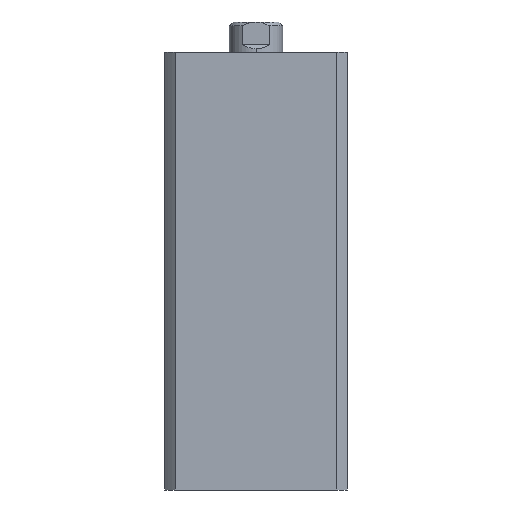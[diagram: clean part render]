
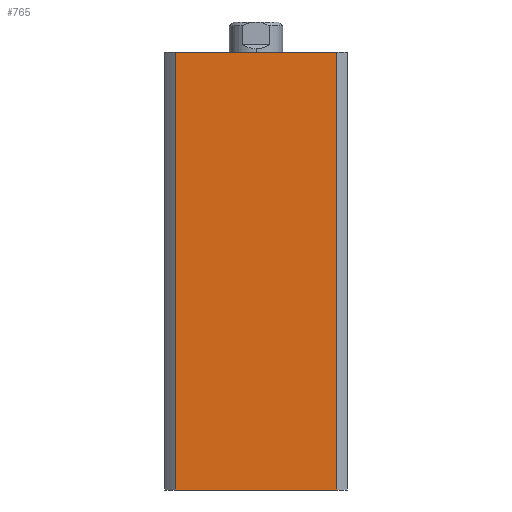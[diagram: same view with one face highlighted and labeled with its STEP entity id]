
A CAD part, left-side view. The second image highlights one B-rep face of the part: STEP entity #765.
In plain terms, the highlighted planar face has unit normal (-1, 0, 0).
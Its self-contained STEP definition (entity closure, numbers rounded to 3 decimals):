
#57 = VERTEX_POINT ( 'NONE', #1114 ) ;
#135 = DIRECTION ( 'NONE',  ( 0., 0., -1. ) ) ;
#136 = DIRECTION ( 'NONE',  ( 1., 0., 0. ) ) ;
#140 = PLANE ( 'NONE',  #4514 ) ;
#143 = CARTESIAN_POINT ( 'NONE',  ( -24., 0., 115. ) ) ;
#495 = VERTEX_POINT ( 'NONE', #1107 ) ;
#765 = ADVANCED_FACE ( 'NONE', ( #3875 ), #140, .F. ) ;
#865 = EDGE_CURVE ( 'NONE', #895, #3715, #4026, .T. ) ;
#894 = EDGE_LOOP ( 'NONE', ( #2114, #2115, #2116, #2117 ) ) ;
#895 = VERTEX_POINT ( 'NONE', #3252 ) ;
#1107 = CARTESIAN_POINT ( 'NONE',  ( -24., 21.166, 0. ) ) ;
#1114 = CARTESIAN_POINT ( 'NONE',  ( -24., -21.166, 0. ) ) ;
#1291 = EDGE_CURVE ( 'NONE', #495, #57, #4161, .T. ) ;
#1292 = EDGE_CURVE ( 'NONE', #3715, #57, #4160, .T. ) ;
#1293 = EDGE_CURVE ( 'NONE', #895, #495, #4164, .T. ) ;
#1681 = CARTESIAN_POINT ( 'NONE',  ( -24., -21.166, 115. ) ) ;
#2114 = ORIENTED_EDGE ( 'NONE', *, *, #1291, .T. ) ;
#2115 = ORIENTED_EDGE ( 'NONE', *, *, #1292, .F. ) ;
#2116 = ORIENTED_EDGE ( 'NONE', *, *, #865, .F. ) ;
#2117 = ORIENTED_EDGE ( 'NONE', *, *, #1293, .T. ) ;
#3251 = DIRECTION ( 'NONE',  ( 0., -1., 0. ) ) ;
#3252 = CARTESIAN_POINT ( 'NONE',  ( -24., 21.166, 115. ) ) ;
#3253 = CARTESIAN_POINT ( 'NONE',  ( -24., 0., 115. ) ) ;
#3531 = CARTESIAN_POINT ( 'NONE',  ( -24., 0., 0. ) ) ;
#3540 = DIRECTION ( 'NONE',  ( 0., -1., 0. ) ) ;
#3545 = CARTESIAN_POINT ( 'NONE',  ( -24., -21.166, 115. ) ) ;
#3549 = DIRECTION ( 'NONE',  ( 0., 0., -1. ) ) ;
#3550 = CARTESIAN_POINT ( 'NONE',  ( -24., 21.166, 115. ) ) ;
#3551 = DIRECTION ( 'NONE',  ( 0., 0., -1. ) ) ;
#3715 = VERTEX_POINT ( 'NONE', #1681 ) ;
#3875 = FACE_OUTER_BOUND ( 'NONE', #894, .T. ) ;
#4026 = LINE ( 'NONE', #3253, #4032 ) ;
#4032 = VECTOR ( 'NONE', #3251, 1000. ) ;
#4160 = LINE ( 'NONE', #3545, #4165 ) ;
#4161 = LINE ( 'NONE', #3531, #4163 ) ;
#4163 = VECTOR ( 'NONE', #3540, 1000. ) ;
#4164 = LINE ( 'NONE', #3550, #4167 ) ;
#4165 = VECTOR ( 'NONE', #3549, 1000. ) ;
#4167 = VECTOR ( 'NONE', #3551, 1000. ) ;
#4514 = AXIS2_PLACEMENT_3D ( 'NONE', #143, #136, #135 ) ;
